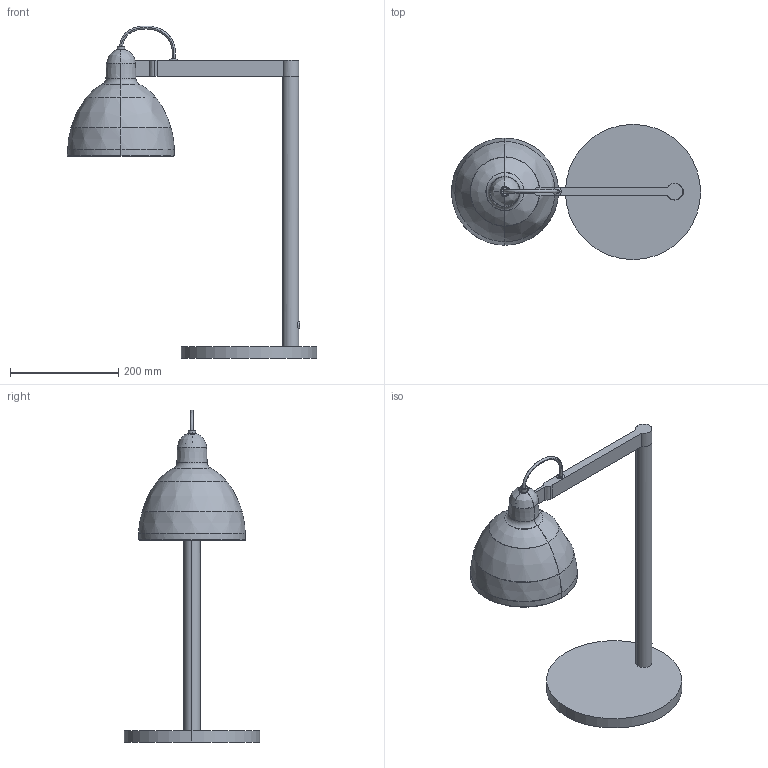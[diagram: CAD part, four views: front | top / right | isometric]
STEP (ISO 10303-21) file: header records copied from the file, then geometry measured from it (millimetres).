
FILE_DESCRIPTION(/* description */ (''),/* implementation_level */ '2;1');
FILE_NAME(/* name */ '64276-112.step',/* time_stamp */ '2024-05-13T10:36:02+02:00',/* author */ ('RenataManzini'),/* organization */ (''),/* preprocessor_version */ 'ST-DEVELOPER v20',/* originating_system */ 'AutoCAD Mechanical',/* authorisation */ '');
FILE_SCHEMA (('AUTOMOTIVE_DESIGN { 1 0 10303 214 3 1 1 }'));
Length unit declared in the file: millimetre
Products named in the file (2): Product; VENICE_SOBREMESA - pieza_62173-628073-_3D_
Assembly tree (1 placements, depth 2):
  Product
    VENICE_SOBREMESA - pieza_62173-628073-_3D_
Bounding box: 460.69 x 250 x 613.94 mm (x, y, z)
Volume: 1878767.6 mm3; surface area: 552848.7 mm2
Topology: 6 solids, 6 shells, 203 faces, 464 edges, 274 vertices
Faces by surface type: bspline 58, plane 48, cylinder 41, cone 30, torus 26
Entity records: 9635 total; most frequent: CARTESIAN_POINT 5767, ORIENTED_EDGE 922, DIRECTION 597, EDGE_CURVE 461, VERTEX_POINT 269, AXIS2_PLACEMENT_3D 235, B_SPLINE_CURVE_WITH_KNOTS 205, EDGE_LOOP 204
